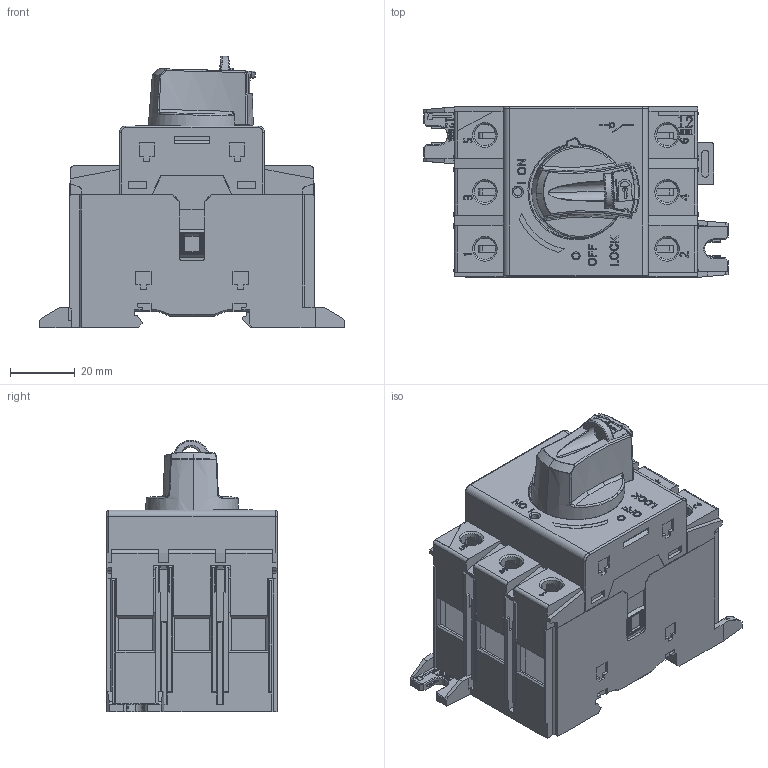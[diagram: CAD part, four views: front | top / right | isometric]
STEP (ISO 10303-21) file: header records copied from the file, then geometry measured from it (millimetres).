
FILE_DESCRIPTION (( 'STEP AP203' ), '1' );
FILE_NAME ('NF2-80DB.STEP', '2024-03-01T05:10:31', ( 'wzjh' ), ( '' ), 'SwSTEP 2.0', 'SolidWorks 2023', '' );
FILE_SCHEMA (( 'CONFIG_CONTROL_DESIGN' ));
Length unit declared in the file: millimetre
Products named in the file (1): NF2-80DB
Bounding box: 94 x 52.5 x 83.79 mm (x, y, z)
Volume: 172053 mm3; surface area: 60019.9 mm2
Topology: 1 solids, 21 shells, 2823 faces, 7964 edges, 5224 vertices
Faces by surface type: plane 2155, cylinder 322, bspline 227, cone 90, torus 23, sphere 6
Entity records: 100972 total; most frequent: CARTESIAN_POINT 29742, ORIENTED_EDGE 15920, DIRECTION 13062, EDGE_CURVE 7960, VECTOR 6320, LINE 6320, VERTEX_POINT 5224, AXIS2_PLACEMENT_3D 3371
